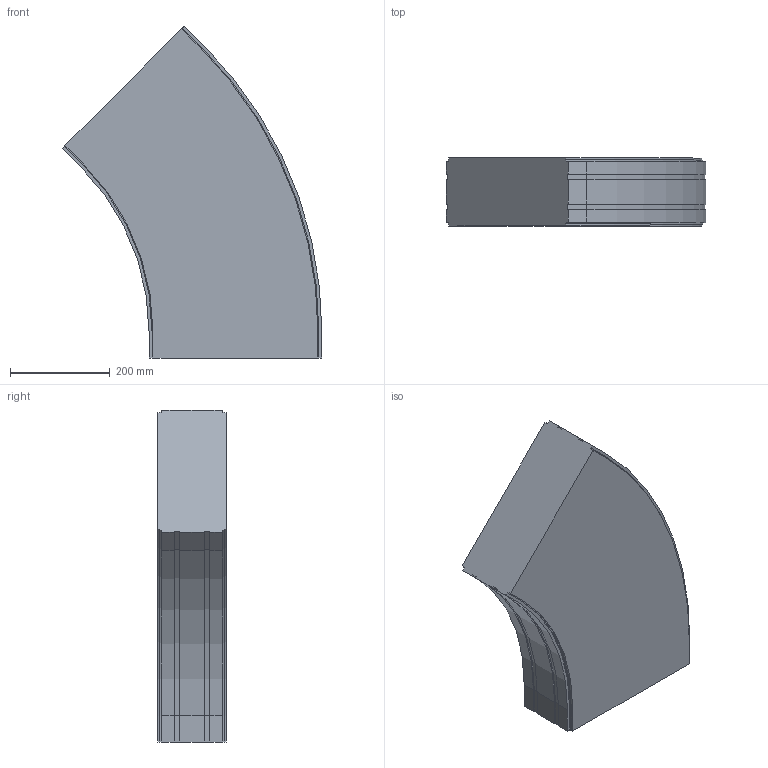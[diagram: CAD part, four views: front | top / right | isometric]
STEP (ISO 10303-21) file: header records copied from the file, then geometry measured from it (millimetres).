
FILE_DESCRIPTION (( 'STEP AP214' ), '1' );
FILE_NAME ('FS-MTC2-150-INOX horizontaalbocht.350 45°.STEP', '2017-02-08T12:40:29', ( '' ), ( '' ), 'SwSTEP 2.0', 'SolidWorks 2016', '' );
FILE_SCHEMA (( 'AUTOMOTIVE_DESIGN' ));
Length unit declared in the file: millimetre
Products named in the file (1): FS-MTC2-150-INOX horizontaalbocht.350 45°
Bounding box: 519.9 x 136.5 x 664.5 mm (x, y, z)
Volume: 28514567.2 mm3; surface area: 692391.2 mm2
Topology: 1 solids, 1 shells, 74 faces, 216 edges, 144 vertices
Faces by surface type: plane 56, cylinder 18
Entity records: 2470 total; most frequent: CARTESIAN_POINT 435, ORIENTED_EDGE 432, DIRECTION 402, EDGE_CURVE 216, LINE 180, VECTOR 180, VERTEX_POINT 144, AXIS2_PLACEMENT_3D 111
